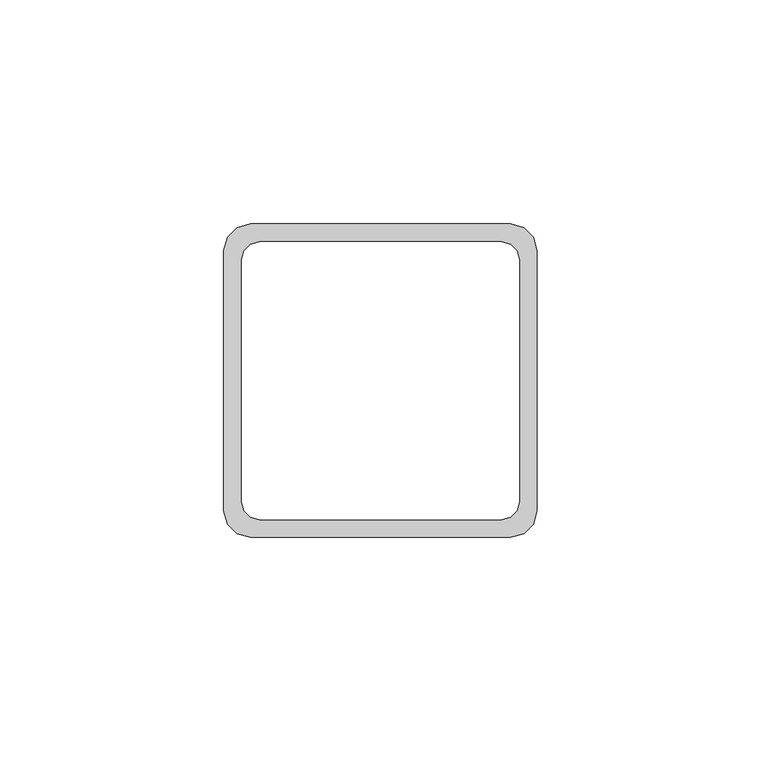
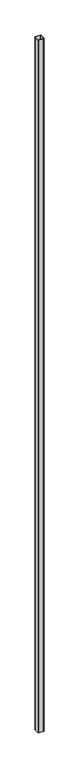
"""IFC4 building model written with IfcOpenShell, lengths in millimetres: beam geometry,  144676 :  144676."""

import ifcopenshell
import ifcopenshell.guid

model = None  # the IFC model being written
_history = None  # IfcOwnerHistory: only IFC2X3 demands one
_inside = {}  # id of a spatial element -> (the spatial element, [elements in it])
_under = {}  # id of a project, library or spatial element -> (it, [spatial elements below it])
_declared = {}  # id of a project -> (the project, [libraries it declares])
_typed = {}  # id of a type object -> (the type object, [elements of that type])
_made_of = {}  # id of a material, layer set ... -> (it, [elements and type objects made of it])


def new_model(schema):
    """Start an empty IFC model of exactly this schema.

    Asked for "IFC4X3", IfcOpenShell would pick the latest addendum, in which some entities
    have other attributes; the version numbers below select the first issue.
    IFC2X3 requires an IfcOwnerHistory on every rooted entity: one is made here for all.
    """
    global model, _history
    if schema == "IFC4X3":
        model = ifcopenshell.file(schema_version=(4, 3, 0, 0))
    else:
        model = ifcopenshell.file(schema=schema)
    _inside.clear()
    _under.clear()
    _declared.clear()
    _typed.clear()
    _made_of.clear()
    _history = None
    if model.schema == "IFC2X3":
        org = make("IfcOrganization", Name="unknown")
        user = make(
            "IfcPersonAndOrganization",
            ThePerson=make("IfcPerson", FamilyName="unknown"),
            TheOrganization=org,
        )
        app = make(
            "IfcApplication",
            ApplicationDeveloper=org,
            Version="unknown",
            ApplicationFullName="unknown",
            ApplicationIdentifier="unknown",
        )
        _history = make(
            "IfcOwnerHistory",
            OwningUser=user,
            OwningApplication=app,
            ChangeAction="ADDED",
            CreationDate=0,
        )
    return model


def make(cls, **values):
    """One entity of the class cls with the attributes given. An attribute that is None is left unset."""
    return model.create_entity(
        cls, **{name: value for name, value in values.items() if value is not None}
    )


def rooted(cls, **values):
    """An entity with a GlobalId (a new one), such as an element, a storey or a relation."""
    return make(cls, GlobalId=ifcopenshell.guid.new(), OwnerHistory=_history, **values)


def si_unit(unit_type, name, prefix=None):
    """IfcSIUnit, for example si_unit("LENGTHUNIT", "METRE", prefix="MILLI")."""
    return make("IfcSIUnit", UnitType=unit_type, Prefix=prefix, Name=name)


def assignment(units):
    """IfcUnitAssignment: the units of a project."""
    return None if units is None else make("IfcUnitAssignment", Units=units)


def point(xyz):
    """IfcCartesianPoint."""
    return None if xyz is None else make("IfcCartesianPoint", Coordinates=xyz)


def direction(xyz):
    """IfcDirection."""
    return None if xyz is None else make("IfcDirection", DirectionRatios=xyz)


def frame(location, z_axis=None, x_axis=None):
    """IfcAxis2Placement3D, a coordinate frame: its origin and axes. An axis left out is left unset."""
    return make(
        "IfcAxis2Placement3D",
        Location=point(location),
        Axis=direction(z_axis),
        RefDirection=direction(x_axis),
    )


def origin():
    """The frame at (0, 0, 0) with its axes left unset."""
    return frame((0.0, 0.0, 0.0))


def origin_with_axes():
    """The frame at (0, 0, 0) with the z axis (0, 0, 1) and the x axis (1, 0, 0) written out."""
    return frame((0.0, 0.0, 0.0), z_axis=(0.0, 0.0, 1.0), x_axis=(1.0, 0.0, 0.0))


def place(relative_to, where):
    """IfcLocalPlacement: puts the frame where relative to a parent placement (None: the world)."""
    return make(
        "IfcLocalPlacement", PlacementRelTo=relative_to, RelativePlacement=where
    )


def context(
    kind, dimensions, precision=None, world=None, true_north=None, identifier=None
):
    """IfcGeometricRepresentationContext, for example the 3D "Model" context."""
    return make(
        "IfcGeometricRepresentationContext",
        ContextIdentifier=identifier,
        ContextType=kind,
        CoordinateSpaceDimension=dimensions,
        Precision=precision,
        WorldCoordinateSystem=world,
        TrueNorth=true_north,
    )


def project(units=None, contexts=None):
    """IfcProject with its units and contexts."""
    return rooted(
        "IfcProject",
        Name="project",
        RepresentationContexts=contexts,
        UnitsInContext=assignment(units),
    )


def spatial(cls, under=None, at=None, **own):
    """A site, building, storey or space (cls), placed at a placement, below another one or the project."""
    s = rooted(cls, ObjectPlacement=at, **own)
    if under is not None:
        _under.setdefault(under.id(), (under, []))[1].append(s)
    return s


def polyline(points):
    """IfcPolyline through the points."""
    return make("IfcPolyline", Points=[point(p) for p in points])


def outline(outer, holes=None, kind="AREA"):
    """IfcArbitraryClosedProfileDef: a profile drawn as a closed curve; with holes, ...WithVoids."""
    if holes is None:
        return make("IfcArbitraryClosedProfileDef", ProfileType=kind, OuterCurve=outer)
    return make(
        "IfcArbitraryProfileDefWithVoids",
        ProfileType=kind,
        OuterCurve=outer,
        InnerCurves=holes,
    )


def extrude(swept, where, along, depth):
    """IfcExtrudedAreaSolid: the profile swept, set in the frame where, extruded along a direction by depth."""
    return make(
        "IfcExtrudedAreaSolid",
        SweptArea=swept,
        Position=where,
        ExtrudedDirection=direction(along),
        Depth=depth,
    )


def shape(context_of_items, identifier, shape_type, items):
    """IfcShapeRepresentation: the items that make up one representation, for example the "Body"."""
    return make(
        "IfcShapeRepresentation",
        ContextOfItems=context_of_items,
        RepresentationIdentifier=identifier,
        RepresentationType=shape_type,
        Items=items,
    )


def source(mapping_origin, context_of_items, identifier, shape_type, items):
    """IfcRepresentationMap: a shape defined once, which mapped items show again and again."""
    return make(
        "IfcRepresentationMap",
        MappingOrigin=mapping_origin,
        MappedRepresentation=shape(context_of_items, identifier, shape_type, items),
    )


def transform(
    local_origin,
    x_axis=None,
    y_axis=None,
    z_axis=None,
    scale=None,
    scale2=None,
    scale3=None,
    uniform=True,
):
    """IfcCartesianTransformationOperator3D, or its non-uniform kind. x_axis, y_axis, z_axis: its Axis1, 2, 3."""
    if uniform:
        return make(
            "IfcCartesianTransformationOperator3D",
            Axis1=direction(x_axis),
            Axis2=direction(y_axis),
            LocalOrigin=point(local_origin),
            Scale=scale,
            Axis3=direction(z_axis),
        )
    return make(
        "IfcCartesianTransformationOperator3DnonUniform",
        Axis1=direction(x_axis),
        Axis2=direction(y_axis),
        LocalOrigin=point(local_origin),
        Scale=scale,
        Axis3=direction(z_axis),
        Scale2=scale2,
        Scale3=scale3,
    )


def mapped(mapping_source, mapping_target):
    """IfcMappedItem: shows the shape of a source again, moved by a transform."""
    return make(
        "IfcMappedItem", MappingSource=mapping_source, MappingTarget=mapping_target
    )


def made_of(thing, what):
    """Note that an element or type object is made of a material, layer set ...; save() writes the relation."""
    if what is not None:
        _made_of.setdefault(what.id(), (what, []))[1].append(thing)
    return thing


def element(
    cls,
    number,
    at=None,
    inside=None,
    cuts=None,
    type_object=None,
    material=None,
    context=None,
    identifier="Body",
    shape_type=None,
    held_by="IfcProductDefinitionShape",
    body=None,
    shapes=None,
    **own,
):
    """One element of the class cls, such as IfcWall. Its Tag is "e" and its number.

    at: its placement. inside: the storey or other place that contains it. cuts: it is an
    opening in that element (IfcRelVoidsElement). A single representation is given by context,
    identifier, shape_type and body (its items); several are given by shapes. held_by: the class
    of the entity that holds the representations. save() writes the other relations.
    """
    e = rooted(cls, Tag="e%d" % number, ObjectPlacement=at, **own)
    if body is not None:
        shapes = [shape(context, identifier, shape_type, body)]
    if shapes is not None:
        e.Representation = make(held_by, Representations=shapes)
    if inside is not None:
        _inside.setdefault(inside.id(), (inside, []))[1].append(e)
    if cuts is not None:
        rooted(
            "IfcRelVoidsElement", RelatingBuildingElement=cuts, RelatedOpeningElement=e
        )
    if type_object is not None:
        _typed.setdefault(type_object.id(), (type_object, []))[1].append(e)
    return made_of(e, material)


def aggregate(whole, parts):
    """IfcRelAggregates: a whole, such as a stair, and the parts it consists of."""
    return rooted("IfcRelAggregates", RelatingObject=whole, RelatedObjects=parts)


def save(model, path):
    """Write the relations noted so far, then the file.

    IfcRelAggregates (storeys below a building ...), IfcRelContainedInSpatialStructure (elements
    in a storey), IfcRelDefinesByType, IfcRelAssociatesMaterial and IfcRelDeclares: one each for
    every whole, place, type object, material and project.
    """
    for whole, parts in _under.values():
        aggregate(whole, parts)
    for where, things in _inside.values():
        rooted(
            "IfcRelContainedInSpatialStructure",
            RelatedElements=things,
            RelatingStructure=where,
        )
    for kind, things in _typed.values():
        rooted("IfcRelDefinesByType", RelatedObjects=things, RelatingType=kind)
    for what, things in _made_of.values():
        rooted("IfcRelAssociatesMaterial", RelatedObjects=things, RelatingMaterial=what)
    for by, libraries in _declared.values():
        rooted("IfcRelDeclares", RelatingContext=by, RelatedDefinitions=libraries)
    model.write(path)


def beam_40357484(model_context):
    return source(origin(), model_context, "Body", "SweptSolid", [
        extrude(outline(polyline([(15154.9999999, 89.0), (15155.8038474, 92.0), (15157.9999999, 94.1961524), (15160.9999999, 95.0), (15218.9999999, 95.0), (15221.9999999, 94.1961524), (15224.1961523, 92.0), (15224.9999999, 89.0), (15224.9999999, 31.0), (15224.1961523, 28.0), (15221.9999999, 25.8038476), (15218.9999999, 25.0), (15160.9999999, 25.0), (15157.9999999, 25.8038476), (15155.8038474, 28.0), (15154.9999999, 31.0), (15154.9999999, 89.0)]), holes=[polyline([(15158.9999999, 33.0), (15159.5358983, 31.0), (15160.9999999, 29.5358984), (15162.9999999, 29.0), (15216.9999999, 29.0), (15218.9999999, 29.5358984), (15220.4641015, 31.0), (15220.9999999, 33.0), (15220.9999999, 87.0), (15220.4641015, 89.0), (15218.9999999, 90.4641016), (15216.9999999, 91.0), (15162.9999999, 91.0), (15160.9999999, 90.4641016), (15159.5358983, 89.0), (15158.9999999, 87.0), (15158.9999999, 33.0)])]), origin_with_axes(), (0.0, 0.0, 1.0), 8450.0),
    ])


if __name__ == "__main__":
    model = new_model("IFC4")
    model_context = context("Model", 3, world=origin())
    ifc_project = project(units=[si_unit("LENGTHUNIT", "METRE", prefix="MILLI")], contexts=[model_context])
    site = spatial("IfcSite", under=ifc_project)
    building = spatial("IfcBuilding", under=site)
    placement = place(None, origin())
    beam_shape = beam_40357484(model_context)
    element("IfcBeam", 1, ObjectType=" 144676 :  144676", at=placement, inside=building, context=model_context, shape_type="MappedRepresentation", body=[
        mapped(beam_shape, transform((0.0, 0.0, 0.0), x_axis=(1.0, 0.0, 0.0), y_axis=(0.0, 1.0, 0.0), z_axis=(0.0, 0.0, 1.0))),
    ])
    save(model, "model.ifc")
